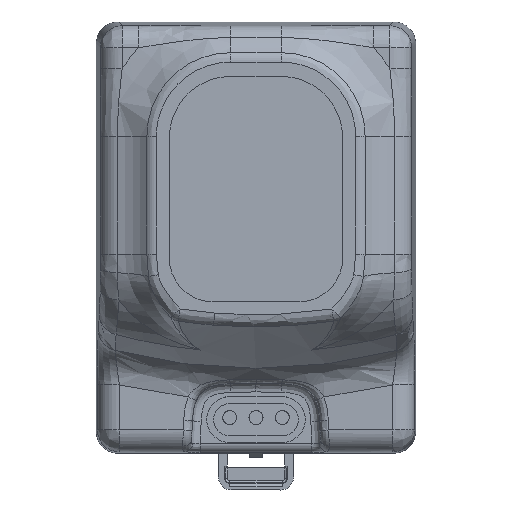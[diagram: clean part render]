
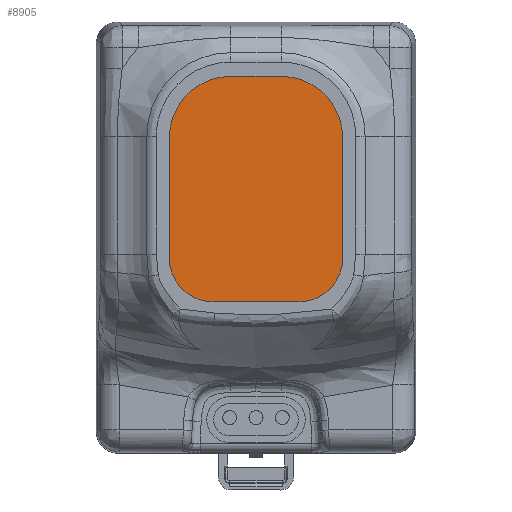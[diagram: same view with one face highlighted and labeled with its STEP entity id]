
A CAD part, top view. The second image highlights one B-rep face of the part: STEP entity #8905.
In plain terms, the highlighted planar face has unit normal (0, 0, 1).
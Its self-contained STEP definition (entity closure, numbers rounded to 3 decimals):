
#4389 = ORIENTED_EDGE ( 'NONE', *, *, #10193, .F. ) ;
#6111 = VERTEX_POINT ( 'NONE', #155275 ) ;
#6214 = CARTESIAN_POINT ( 'NONE',  ( -19.8, 1456.625, 43.2 ) ) ;
#7155 = CARTESIAN_POINT ( 'NONE',  ( 9.8, 1456.625, 43.2 ) ) ;
#8905 = ADVANCED_FACE ( 'NONE', ( #47465 ), #22928, .T. ) ;
#8981 = CARTESIAN_POINT ( 'NONE',  ( 5.8, 1429.125, 43.2 ) ) ;
#10193 = EDGE_CURVE ( 'NONE', #66872, #69535, #143715, .T. ) ;
#11134 = CARTESIAN_POINT ( 'NONE',  ( 19.8, 1456.625, 43.2 ) ) ;
#16625 = ORIENTED_EDGE ( 'NONE', *, *, #103560, .F. ) ;
#17726 = EDGE_CURVE ( 'NONE', #54388, #153251, #153537, .T. ) ;
#22928 = PLANE ( 'NONE',  #120550 ) ;
#23805 = DIRECTION ( 'NONE',  ( 0., 0., 1. ) ) ;
#23905 = CARTESIAN_POINT ( 'NONE',  ( -9.8, 1456.625, 43.2 ) ) ;
#24570 = DIRECTION ( 'NONE',  ( 1., 0., 0. ) ) ;
#35095 = CARTESIAN_POINT ( 'NONE',  ( -19.8, 1456.625, 43.2 ) ) ;
#35529 = CARTESIAN_POINT ( 'NONE',  ( 9.8, 1466.625, 43.2 ) ) ;
#37684 = DIRECTION ( 'NONE',  ( 0., 1., 0. ) ) ;
#39436 = VERTEX_POINT ( 'NONE', #67485 ) ;
#39771 = AXIS2_PLACEMENT_3D ( 'NONE', #122905, #151847, #163282 ) ;
#42017 = CARTESIAN_POINT ( 'NONE',  ( 19.8, 1429.125, 43.2 ) ) ;
#47465 = FACE_OUTER_BOUND ( 'NONE', #148430, .T. ) ;
#49515 = CARTESIAN_POINT ( 'NONE',  ( -5.8, 1415.125, 43.2 ) ) ;
#50160 = DIRECTION ( 'NONE',  ( 0., 0., 1. ) ) ;
#50934 = DIRECTION ( 'NONE',  ( 1., 0., 0. ) ) ;
#52316 = VECTOR ( 'NONE', #92540, 1000. ) ;
#54388 = VERTEX_POINT ( 'NONE', #59171 ) ;
#55694 = EDGE_CURVE ( 'NONE', #6111, #69535, #171760, .T. ) ;
#58190 = CARTESIAN_POINT ( 'NONE',  ( -19.8, 1429.125, 43.2 ) ) ;
#59171 = CARTESIAN_POINT ( 'NONE',  ( 5.8, 1415.125, 43.2 ) ) ;
#60485 = DIRECTION ( 'NONE',  ( 0., 0., 1. ) ) ;
#61693 = CIRCLE ( 'NONE', #165391, 14. ) ;
#63137 = DIRECTION ( 'NONE',  ( 0., 0., 1. ) ) ;
#63994 = CARTESIAN_POINT ( 'NONE',  ( 22.762, 1455.749, 43.2 ) ) ;
#64720 = ORIENTED_EDGE ( 'NONE', *, *, #55694, .T. ) ;
#64967 = DIRECTION ( 'NONE',  ( 1., 0., 0. ) ) ;
#66872 = VERTEX_POINT ( 'NONE', #58190 ) ;
#67485 = CARTESIAN_POINT ( 'NONE',  ( 9.8, 1466.625, 43.2 ) ) ;
#69535 = VERTEX_POINT ( 'NONE', #6214 ) ;
#75465 = EDGE_CURVE ( 'NONE', #134518, #39436, #108902, .T. ) ;
#78435 = EDGE_CURVE ( 'NONE', #54388, #107883, #61693, .T. ) ;
#90679 = ORIENTED_EDGE ( 'NONE', *, *, #130705, .T. ) ;
#92540 = DIRECTION ( 'NONE',  ( 0., -1., 0. ) ) ;
#93471 = ORIENTED_EDGE ( 'NONE', *, *, #78435, .T. ) ;
#96642 = ORIENTED_EDGE ( 'NONE', *, *, #170038, .F. ) ;
#97221 = VECTOR ( 'NONE', #142439, 1000. ) ;
#103560 = EDGE_CURVE ( 'NONE', #134518, #107883, #115657, .T. ) ;
#107883 = VERTEX_POINT ( 'NONE', #42017 ) ;
#108902 = CIRCLE ( 'NONE', #134084, 10. ) ;
#114038 = CARTESIAN_POINT ( 'NONE',  ( 5.8, 1415.125, 43.2 ) ) ;
#115657 = LINE ( 'NONE', #147812, #52316 ) ;
#118113 = ORIENTED_EDGE ( 'NONE', *, *, #75465, .T. ) ;
#118898 = ORIENTED_EDGE ( 'NONE', *, *, #17726, .F. ) ;
#120550 = AXIS2_PLACEMENT_3D ( 'NONE', #63994, #63137, #50934 ) ;
#122905 = CARTESIAN_POINT ( 'NONE',  ( -5.8, 1429.125, 43.2 ) ) ;
#126598 = VECTOR ( 'NONE', #37684, 1000. ) ;
#130705 = EDGE_CURVE ( 'NONE', #66872, #153251, #146093, .T. ) ;
#134084 = AXIS2_PLACEMENT_3D ( 'NONE', #7155, #60485, #24570 ) ;
#134518 = VERTEX_POINT ( 'NONE', #11134 ) ;
#138948 = VECTOR ( 'NONE', #141242, 1000. ) ;
#141242 = DIRECTION ( 'NONE',  ( -1., 0., 0. ) ) ;
#142439 = DIRECTION ( 'NONE',  ( 1., 0., 0. ) ) ;
#142981 = DIRECTION ( 'NONE',  ( 1., 0., 0. ) ) ;
#143715 = LINE ( 'NONE', #35095, #126598 ) ;
#146093 = CIRCLE ( 'NONE', #39771, 14. ) ;
#147812 = CARTESIAN_POINT ( 'NONE',  ( 19.8, 1456.625, 43.2 ) ) ;
#148430 = EDGE_LOOP ( 'NONE', ( #90679, #118898, #93471, #16625, #118113, #96642, #64720, #4389 ) ) ;
#151847 = DIRECTION ( 'NONE',  ( 0., 0., 1. ) ) ;
#153251 = VERTEX_POINT ( 'NONE', #49515 ) ;
#153537 = LINE ( 'NONE', #114038, #138948 ) ;
#155275 = CARTESIAN_POINT ( 'NONE',  ( -9.8, 1466.625, 43.2 ) ) ;
#155606 = LINE ( 'NONE', #35529, #97221 ) ;
#160522 = AXIS2_PLACEMENT_3D ( 'NONE', #23905, #50160, #64967 ) ;
#163282 = DIRECTION ( 'NONE',  ( 1., 0., 0. ) ) ;
#165391 = AXIS2_PLACEMENT_3D ( 'NONE', #8981, #23805, #142981 ) ;
#170038 = EDGE_CURVE ( 'NONE', #6111, #39436, #155606, .T. ) ;
#171760 = CIRCLE ( 'NONE', #160522, 10. ) ;
